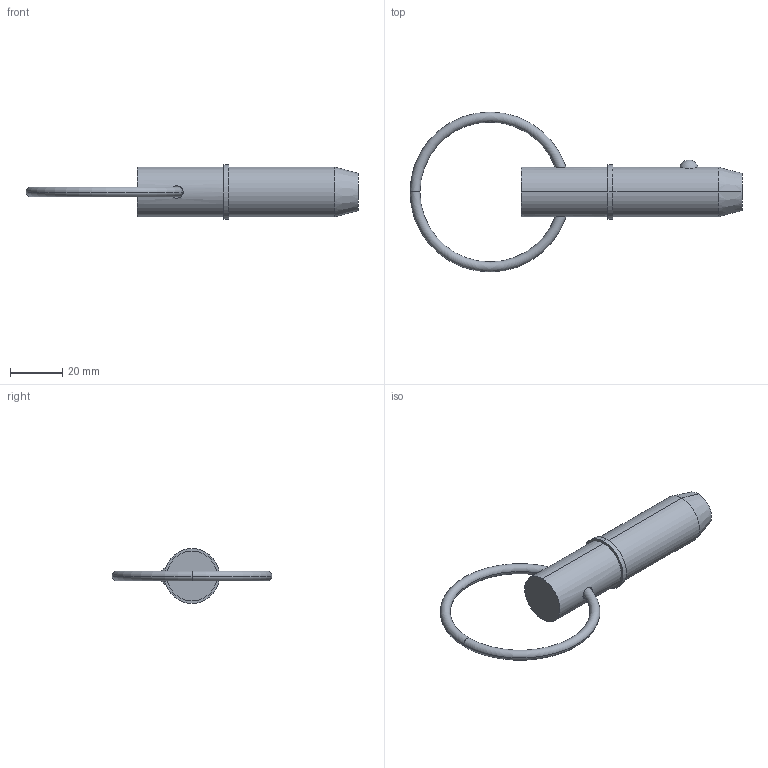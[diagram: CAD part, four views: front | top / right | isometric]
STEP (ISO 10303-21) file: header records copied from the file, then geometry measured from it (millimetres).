
FILE_DESCRIPTION (( 'STEP AP203' ), '1' );
FILE_NAME ('33014.W7510.step', '2024-11-04T08:35:01', ( '' ), ( '' ), 'SwSTEP 2.0', 'SolidWorks 2019', '' );
FILE_SCHEMA (( 'CONFIG_CONTROL_DESIGN' ));
Length unit declared in the file: millimetre
Products named in the file (3): Part2_33014.W7510; Part1_33014.W7510; 33014.W7510
Assembly tree (2 placements, depth 2):
  33014.W7510
    Part1_33014.W7510
    Part2_33014.W7510
Bounding box: 126.6 x 60.96 x 20.95 mm (x, y, z)
Volume: 25285.6 mm3; surface area: 7986.7 mm2
Topology: 2 solids, 2 shells, 22 faces, 43 edges, 26 vertices
Faces by surface type: torus 8, cylinder 6, plane 4, sphere 2, cone 2
Entity records: 1053 total; most frequent: CARTESIAN_POINT 276, DIRECTION 120, ORIENTED_EDGE 86, AXIS2_PLACEMENT_3D 56, EDGE_CURVE 43, CIRCLE 29, EDGE_LOOP 27, PERSON_AND_ORGANIZATION 26
